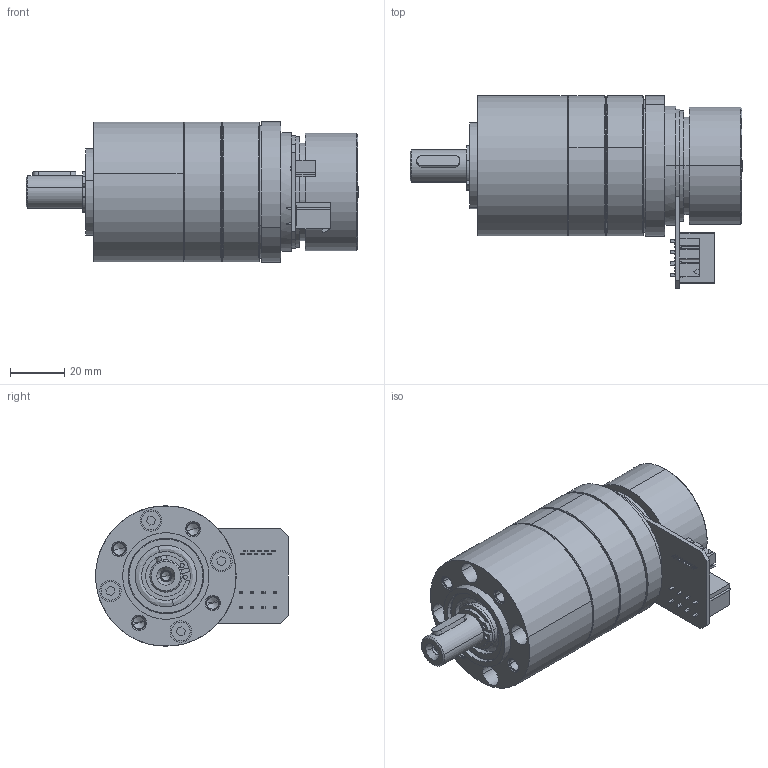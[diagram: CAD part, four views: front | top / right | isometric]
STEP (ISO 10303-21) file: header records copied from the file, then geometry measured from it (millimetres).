
FILE_DESCRIPTION (( 'STEP AP214' ), '1' );
FILE_NAME ('EC45Flat-70W+mile+ PM52-2 étages.STEP', '2014-11-18T14:16:45', ( '' ), ( '' ), 'SwSTEP 2.0', 'SolidWorks 2013', '' );
FILE_SCHEMA (( 'AUTOMOTIVE_DESIGN' ));
Length unit declared in the file: millimetre
Products named in the file (21): 906350101; 039281083; EC45FLAT-70W+mile; PM52 pour EC45Flat-70W_2 etages; Coté moteur^PM52 pour EC45Flat-70W; EC45Flat-70W+mile+ PM52-2 étages; 1009221-V1_Part; D912_M4X10_1; Coté sortie^PM52 pour EC45Flat-70W; SCHRAUBE_1241978_6; 4X4X16_D6885A_2; D471_12X1_5_2; 8102168_ABTRIEB_LK1_KPL_2; GK2152_POS31_2_LAGERBOLZEN_2; 8101171_ABTRIEB_ROHTEIL_AF0_2; DIN998_PS_12X18X1_2; D625-6001-2RS_2; 8006231_LAGERFLANSCH_2; 8006230_ZAHNKRANZ_Z46_2; 8006405_DICHTRING_2; EC45Flat-70w+mile
Assembly tree (31 placements, depth 5):
  EC45Flat-70W+mile+ PM52-2 étages
    EC45Flat-70w+mile
      EC45FLAT-70W+mile
      039281083
      906350101
    PM52 pour EC45Flat-70W_2 etages
      8006405_DICHTRING_2
      8006230_ZAHNKRANZ_Z46_2  x2
      Coté sortie^PM52 pour EC45Flat-70W
        8006231_LAGERFLANSCH_2
        D625-6001-2RS_2  x2
        DIN998_PS_12X18X1_2  x2
        8102168_ABTRIEB_LK1_KPL_2
          8101171_ABTRIEB_ROHTEIL_AF0_2
          GK2152_POS31_2_LAGERBOLZEN_2  x3
        D471_12X1_5_2
        4X4X16_D6885A_2
        8006405_DICHTRING_2
        SCHRAUBE_1241978_6  x4
      Coté moteur^PM52 pour EC45Flat-70W
        8006405_DICHTRING_2
        D912_M4X10_1  x2
        1009221-V1_Part
Bounding box: 122.85 x 71.3 x 52 mm (x, y, z)
Volume: 101083.6 mm3; surface area: 79755.5 mm2
Topology: 22 solids, 43 shells, 1476 faces, 3797 edges, 2480 vertices
Faces by surface type: plane 859, cylinder 479, cone 86, bspline 52
Entity records: 35064 total; most frequent: CARTESIAN_POINT 6931, DIRECTION 5680, ORIENTED_EDGE 5536, EDGE_CURVE 2782, LINE 2042, VECTOR 2042, VERTEX_POINT 1822, AXIS2_PLACEMENT_3D 1819
